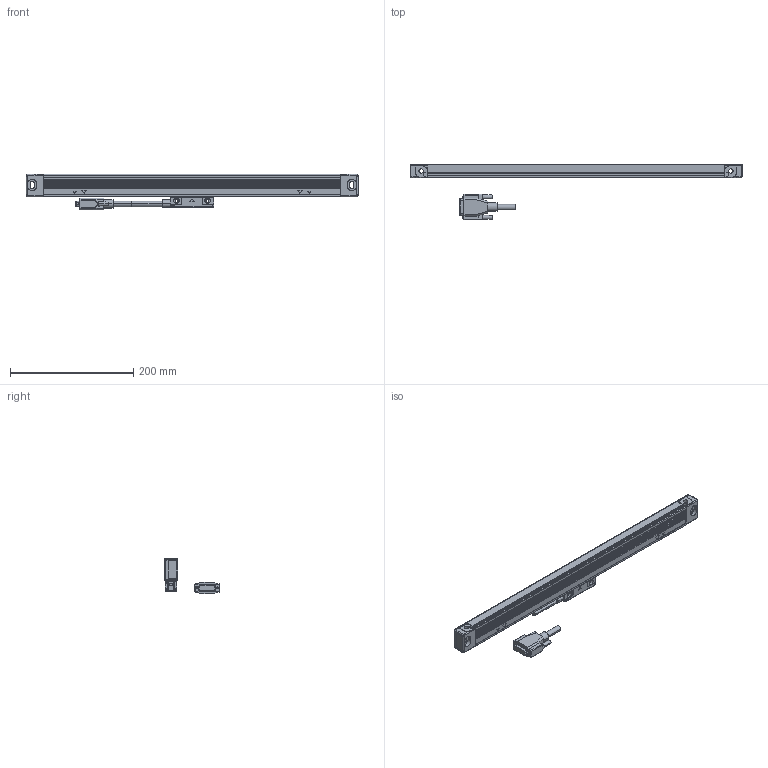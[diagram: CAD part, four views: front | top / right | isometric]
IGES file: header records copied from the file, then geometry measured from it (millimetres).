
Start section: Elysium IGES Interface
Global section: file name: 88H\\Utsu119s\kiyo_cad\data\3D\AT715\HP掲載用_201710\ﾓﾃﾞﾙ修正後_IGES\AT715-350_営業送付.igs; native system: Creo Elements/Direct Modeling 18.1B  29-Sep-2012; preprocessor: Creo Element/Direct IGES_3D V2.2; author: Unknown; organization: Unknown; date: 20181220.143918; units: millimetre
Bounding box: 538 x 90 x 57.65 mm (x, y, z)
Volume: 430252.2 mm3; surface area: 100229.6 mm2
Topology: 3 solids, 5 shells, 501 faces, 1300 edges, 836 vertices
Faces by surface type: bspline 501
